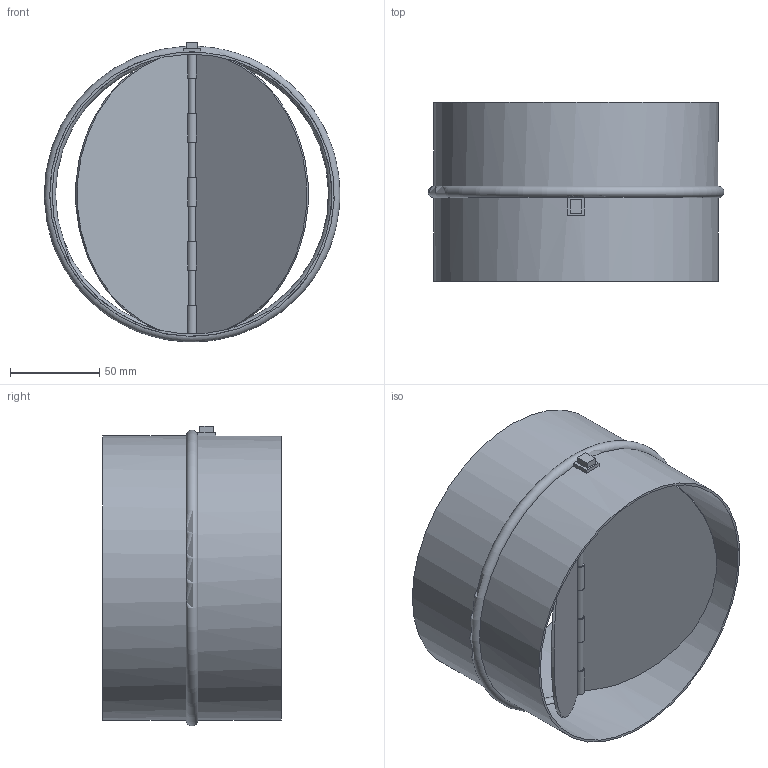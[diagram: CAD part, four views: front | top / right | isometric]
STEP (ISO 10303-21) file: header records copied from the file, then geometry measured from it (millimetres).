
FILE_DESCRIPTION(/* description */ (''),/* implementation_level */ '2;1');
FILE_NAME(/* name */ 'Z:\Output\RSK 160-05669-001.stp',/* time_stamp */ '2017-05-05T17:00:14+02:00',/* author */ ('engineering1'),/* organization */ (''),/* preprocessor_version */ 'ST-DEVELOPER v16.5',/* originating_system */ 'Autodesk Inventor 2017',/* authorisation */ '');
FILE_SCHEMA (('AUTOMOTIVE_DESIGN { 1 0 10303 214 3 1 1 }'));
Length unit declared in the file: millimetre
Products named in the file (1): RSK-1
Bounding box: 165.28 x 100 x 167.71 mm (x, y, z)
Volume: 105248.9 mm3; surface area: 142958.1 mm2
Topology: 1 solids, 1 shells, 66 faces, 179 edges, 114 vertices
Faces by surface type: plane 41, cylinder 23, torus 2
Full cylindrical faces by diameter (mm): 156.5 x2, 159 x2
Entity records: 2103 total; most frequent: CARTESIAN_POINT 443, DIRECTION 351, ORIENTED_EDGE 334, EDGE_CURVE 167, AXIS2_PLACEMENT_3D 131, VERTEX_POINT 109, LINE 89, VECTOR 89
